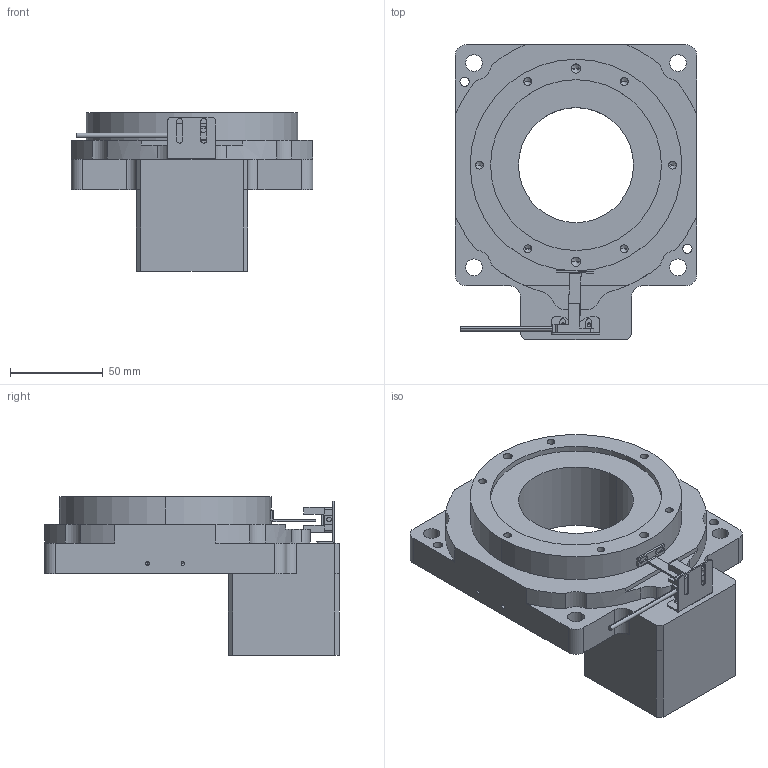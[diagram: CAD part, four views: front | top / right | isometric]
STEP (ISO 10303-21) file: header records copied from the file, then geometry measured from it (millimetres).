
FILE_DESCRIPTION (( 'STEP AP203' ), '1' );
FILE_NAME ('RTN130-10K-8-36-70-M4(60²½½ø¼Ó¸ß41.5).STEP', '2024-05-21T10:12:35', ( '' ), ( '' ), 'SwSTEP 2.0', 'SolidWorks 2023', '' );
FILE_SCHEMA (( 'CONFIG_CONTROL_DESIGN' ));
Length unit declared in the file: millimetre
Products named in the file (1): RTN130-10K-8-36-70-M4(60步进加高41.5)
Bounding box: 130 x 158.8 x 85.5 mm (x, y, z)
Volume: 618666.3 mm3; surface area: 78216.7 mm2
Topology: 4 solids, 6 shells, 278 faces, 737 edges, 458 vertices
Faces by surface type: cylinder 124, plane 114, cone 40
Entity records: 8480 total; most frequent: DIRECTION 1503, CARTESIAN_POINT 1440, ORIENTED_EDGE 1394, EDGE_CURVE 697, AXIS2_PLACEMENT_3D 529, VERTEX_POINT 458, VECTOR 445, LINE 445
